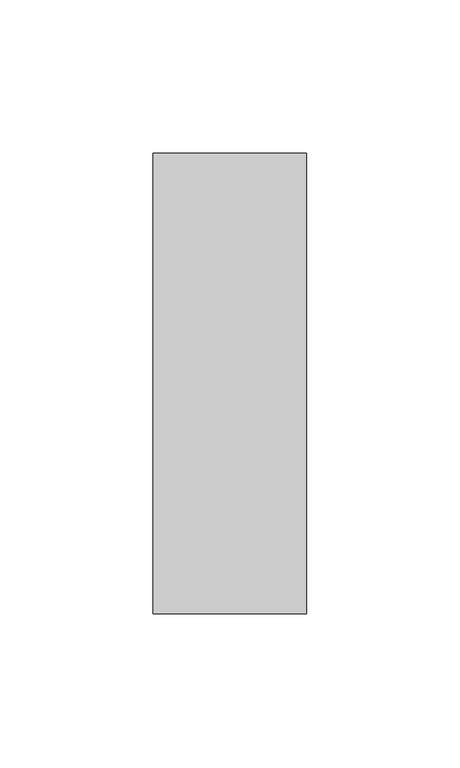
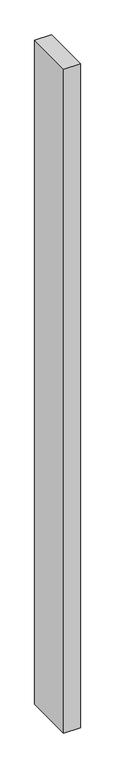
"""IFC4 building model written with IfcOpenShell, lengths in millimetres: member geometry, Прямоугольный импост : 50 мм x 150 мм."""

from ifc_helpers import new_model, si_unit, frame, origin, place, context, project, spatial, polyline, outline, extrude, source, transform, mapped, element, save


def member_69155bbe(model_context):
    return source(origin(), model_context, "Body", "SweptSolid", [
        extrude(outline(polyline([(0.0, 75.0), (0.0, -75.0), (-50.0, -75.0), (-50.0, 75.0), (0.0, 75.0)])), frame((0.0, 0.0, -2100.0), z_axis=(0.0, 0.0, 1.0), x_axis=(1.0, 0.0, 0.0)), (0.0, 0.0, 1.0), 2100.0),
    ])


if __name__ == "__main__":
    model = new_model("IFC4")
    model_context = context("Model", 3, world=origin())
    ifc_project = project(units=[si_unit("LENGTHUNIT", "METRE", prefix="MILLI")], contexts=[model_context])
    site = spatial("IfcSite", under=ifc_project)
    building = spatial("IfcBuilding", under=site)
    placement = place(None, origin())
    member_shape = member_69155bbe(model_context)
    element("IfcMember", 1, ObjectType="Прямоугольный импост : 50 мм x 150 мм", at=placement, inside=building, context=model_context, shape_type="MappedRepresentation", body=[
        mapped(member_shape, transform((0.0, 0.0, 0.0), x_axis=(1.0, 0.0, 0.0), y_axis=(0.0, 1.0, 0.0), z_axis=(0.0, 0.0, 1.0))),
    ])
    save(model, "model.ifc")
